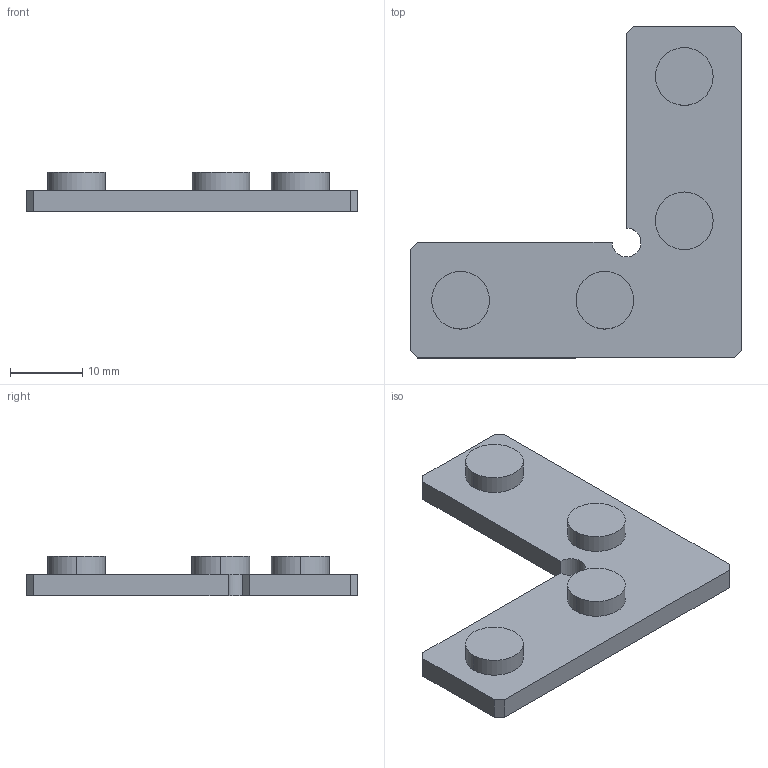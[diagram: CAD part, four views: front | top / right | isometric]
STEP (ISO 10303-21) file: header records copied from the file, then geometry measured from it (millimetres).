
FILE_DESCRIPTION (( 'STEP AP203' ), '1' );
FILE_NAME ('0108GVB90-46.STEP', '2024-09-03T13:07:42', ( 'Windows-Benutzer' ), ( '' ), 'SwSTEP 2.0', 'SolidWorks 2024', '' );
FILE_SCHEMA (( 'CONFIG_CONTROL_DESIGN' ));
Length unit declared in the file: millimetre
Products named in the file (1): 0108GVB90-46
Bounding box: 46 x 46 x 5.5 mm (x, y, z)
Volume: 3679.1 mm3; surface area: 3475.3 mm2
Topology: 1 solids, 1 shells, 38 faces, 84 edges, 56 vertices
Faces by surface type: plane 21, cylinder 17
Entity records: 1139 total; most frequent: DIRECTION 196, CARTESIAN_POINT 179, ORIENTED_EDGE 168, EDGE_CURVE 84, AXIS2_PLACEMENT_3D 73, VERTEX_POINT 56, LINE 50, VECTOR 50
